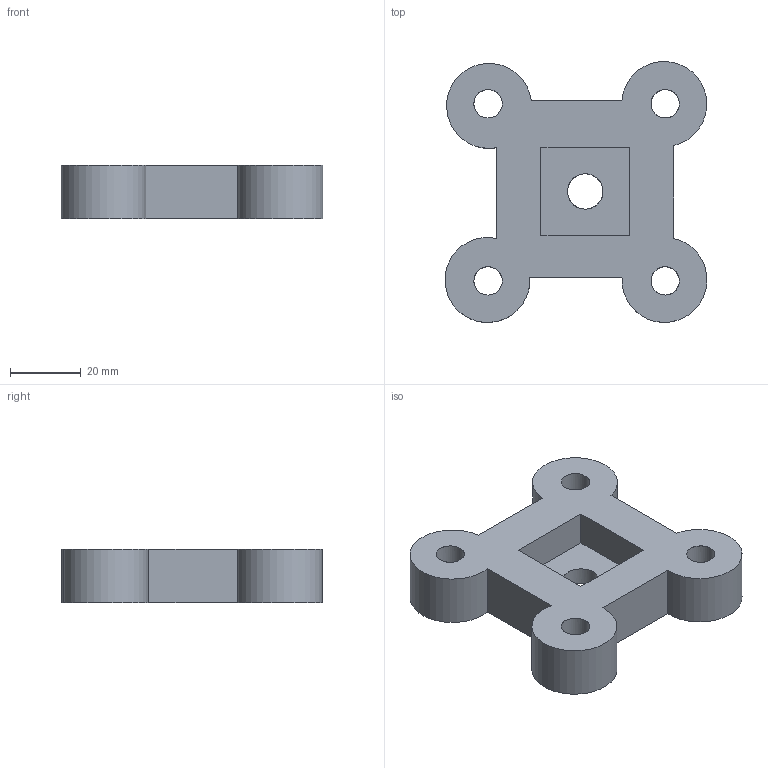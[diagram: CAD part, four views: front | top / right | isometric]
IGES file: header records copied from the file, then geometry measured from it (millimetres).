
Global section: file name: Filename.iges; native system: Open CASCADE 7.3; preprocessor: Open CASCADE IGES processor 7.3; date: 20201026.182857; units: millimetre
Bounding box: 73.9 x 73.62 x 15 mm (x, y, z)
Surface area: 14693.2 mm2 (no closed solid volume)
Topology: 0 solids, 0 shells, 20 faces, 102 edges, 92 vertices
Faces by surface type: plane 11, revolution 9
